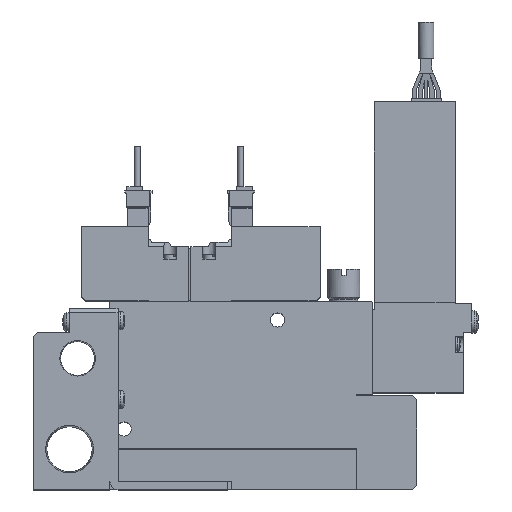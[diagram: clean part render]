
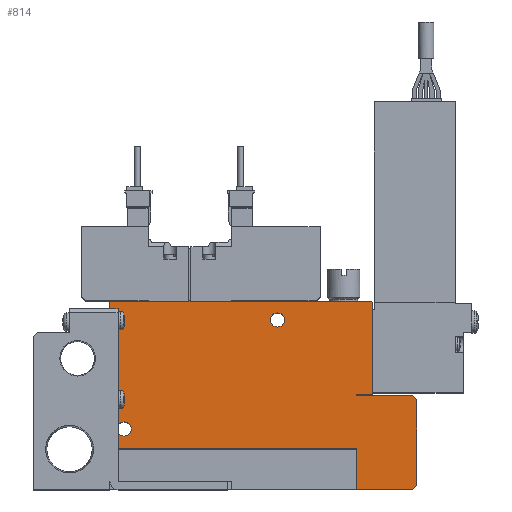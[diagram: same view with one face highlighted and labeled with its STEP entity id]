
A CAD part, top view. The second image highlights one B-rep face of the part: STEP entity #814.
In plain terms, the highlighted planar face has unit normal (0, 0, 1).
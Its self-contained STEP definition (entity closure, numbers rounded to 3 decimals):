
#814=ADVANCED_FACE('',(#1863,#1864,#1865),#1866,.F.);
#1863=FACE_OUTER_BOUND('',#3391,.T.);
#1864=FACE_BOUND('',#3392,.T.);
#1865=FACE_BOUND('',#3393,.T.);
#1866=PLANE('',#3394);
#3391=EDGE_LOOP('',(#7003,#7004,#7005,#7006,#7007,#7008,#7009,#7010,#7011,#7012,#7013,#7014,#7015,#7016));
#3392=EDGE_LOOP('',(#7017));
#3393=EDGE_LOOP('',(#7018));
#3394=AXIS2_PLACEMENT_3D('',#7019,#7020,#7021);
#7003=ORIENTED_EDGE('',*,*,#10138,.T.);
#7004=ORIENTED_EDGE('',*,*,#10124,.F.);
#7005=ORIENTED_EDGE('',*,*,#10139,.F.);
#7006=ORIENTED_EDGE('',*,*,#10106,.T.);
#7007=ORIENTED_EDGE('',*,*,#10140,.T.);
#7008=ORIENTED_EDGE('',*,*,#10141,.T.);
#7009=ORIENTED_EDGE('',*,*,#10099,.T.);
#7010=ORIENTED_EDGE('',*,*,#10142,.T.);
#7011=ORIENTED_EDGE('',*,*,#10143,.T.);
#7012=ORIENTED_EDGE('',*,*,#10144,.T.);
#7013=ORIENTED_EDGE('',*,*,#10145,.T.);
#7014=ORIENTED_EDGE('',*,*,#10146,.T.);
#7015=ORIENTED_EDGE('',*,*,#10147,.T.);
#7016=ORIENTED_EDGE('',*,*,#10148,.T.);
#7017=ORIENTED_EDGE('',*,*,#10149,.F.);
#7018=ORIENTED_EDGE('',*,*,#10150,.F.);
#7019=CARTESIAN_POINT('',(0.0,0.0,5.0));
#7020=DIRECTION('',(0.0,0.0,-1.0));
#7021=DIRECTION('',(0.0,-1.0,0.0));
#10099=EDGE_CURVE('',#12243,#12241,#12244,.T.);
#10106=EDGE_CURVE('',#12251,#12255,#12257,.T.);
#10124=EDGE_CURVE('',#12291,#12292,#12293,.T.);
#10138=EDGE_CURVE('',#12317,#12292,#12318,.T.);
#10139=EDGE_CURVE('',#12251,#12291,#12319,.T.);
#10140=EDGE_CURVE('',#12255,#12320,#12321,.T.);
#10141=EDGE_CURVE('',#12320,#12243,#12322,.T.);
#10142=EDGE_CURVE('',#12241,#12323,#12324,.T.);
#10143=EDGE_CURVE('',#12323,#12325,#12326,.T.);
#10144=EDGE_CURVE('',#12325,#12327,#12328,.T.);
#10145=EDGE_CURVE('',#12327,#12329,#12330,.T.);
#10146=EDGE_CURVE('',#12329,#12331,#12332,.T.);
#10147=EDGE_CURVE('',#12331,#12333,#12334,.T.);
#10148=EDGE_CURVE('',#12333,#12317,#12335,.T.);
#10149=EDGE_CURVE('',#12336,#12336,#12337,.T.);
#10150=EDGE_CURVE('',#12338,#12338,#12339,.T.);
#12241=VERTEX_POINT('',#15766);
#12243=VERTEX_POINT('',#15769);
#12244=LINE('',#15770,#15771);
#12251=VERTEX_POINT('',#15780);
#12255=VERTEX_POINT('',#15786);
#12257=LINE('',#15789,#15790);
#12291=VERTEX_POINT('',#15841);
#12292=VERTEX_POINT('',#15842);
#12293=LINE('',#15843,#15844);
#12317=VERTEX_POINT('',#15881);
#12318=LINE('',#15882,#15883);
#12319=LINE('',#15884,#15885);
#12320=VERTEX_POINT('',#15886);
#12321=LINE('',#15887,#15888);
#12322=LINE('',#15889,#15890);
#12323=VERTEX_POINT('',#15891);
#12324=LINE('',#15892,#15893);
#12325=VERTEX_POINT('',#15894);
#12326=LINE('',#15895,#15896);
#12327=VERTEX_POINT('',#15897);
#12328=LINE('',#15898,#15899);
#12329=VERTEX_POINT('',#15900);
#12330=LINE('',#15901,#15902);
#12331=VERTEX_POINT('',#15903);
#12332=LINE('',#15904,#15905);
#12333=VERTEX_POINT('',#15906);
#12334=LINE('',#15907,#15908);
#12335=LINE('',#15909,#15910);
#12336=VERTEX_POINT('',#15911);
#12337=CIRCLE('',#15912,1.75);
#12338=VERTEX_POINT('',#15913);
#12339=CIRCLE('',#15914,1.75);
#15766=CARTESIAN_POINT('',(75.0,23.25,5.0));
#15769=CARTESIAN_POINT('',(76.0,22.25,5.0));
#15770=CARTESIAN_POINT('',(76.0,22.25,5.0));
#15771=VECTOR('',#19547,1.0);
#15780=CARTESIAN_POINT('',(61.1,0.0,5.0));
#15786=CARTESIAN_POINT('',(75.0,0.0,5.0));
#15789=CARTESIAN_POINT('',(0.0,0.0,5.0));
#15790=VECTOR('',#19556,1.0);
#15841=CARTESIAN_POINT('',(61.1,10.1,5.0));
#15842=CARTESIAN_POINT('',(0.0,10.1,5.0));
#15843=CARTESIAN_POINT('',(61.1,10.1,5.0));
#15844=VECTOR('',#19574,1.0);
#15881=CARTESIAN_POINT('',(0.0,46.4,5.0));
#15882=CARTESIAN_POINT('',(0.0,46.4,5.0));
#15883=VECTOR('',#19588,1.0);
#15884=CARTESIAN_POINT('',(61.1,0.0,5.0));
#15885=VECTOR('',#19589,1.0);
#15886=CARTESIAN_POINT('',(76.0,1.0,5.0));
#15887=CARTESIAN_POINT('',(75.0,0.0,5.0));
#15888=VECTOR('',#19590,1.0);
#15889=CARTESIAN_POINT('',(76.0,1.0,5.0));
#15890=VECTOR('',#19591,1.0);
#15891=CARTESIAN_POINT('',(61.0,23.25,5.0));
#15892=CARTESIAN_POINT('',(75.0,23.25,5.0));
#15893=VECTOR('',#19592,1.0);
#15894=CARTESIAN_POINT('',(61.0,23.5,5.0));
#15895=CARTESIAN_POINT('',(61.0,23.25,5.0));
#15896=VECTOR('',#19593,1.0);
#15897=CARTESIAN_POINT('',(65.0,23.5,5.0));
#15898=CARTESIAN_POINT('',(61.0,23.5,5.0));
#15899=VECTOR('',#19594,1.0);
#15900=CARTESIAN_POINT('',(65.0,46.4,5.0));
#15901=CARTESIAN_POINT('',(65.0,23.5,5.0));
#15902=VECTOR('',#19595,1.0);
#15903=CARTESIAN_POINT('',(64.8,46.6,5.0));
#15904=CARTESIAN_POINT('',(65.0,46.4,5.0));
#15905=VECTOR('',#19596,1.0);
#15906=CARTESIAN_POINT('',(0.2,46.6,5.0));
#15907=CARTESIAN_POINT('',(64.8,46.6,5.0));
#15908=VECTOR('',#19597,1.0);
#15909=CARTESIAN_POINT('',(0.2,46.6,5.0));
#15910=VECTOR('',#19598,1.0);
#15911=CARTESIAN_POINT('',(5.25,15.0,5.0));
#15912=AXIS2_PLACEMENT_3D('',#19599,#19600,#19601);
#15913=CARTESIAN_POINT('',(43.25,42.0,5.0));
#15914=AXIS2_PLACEMENT_3D('',#19602,#19603,#19604);
#19547=DIRECTION('',(-0.707,0.707,0.0));
#19556=DIRECTION('',(1.0,0.0,0.0));
#19574=DIRECTION('',(-1.0,0.0,0.0));
#19588=DIRECTION('',(0.0,-1.0,0.0));
#19589=DIRECTION('',(0.0,1.0,0.0));
#19590=DIRECTION('',(0.707,0.707,0.0));
#19591=DIRECTION('',(0.0,1.0,0.0));
#19592=DIRECTION('',(-1.0,0.0,0.0));
#19593=DIRECTION('',(0.0,1.0,0.0));
#19594=DIRECTION('',(1.0,0.,0.0));
#19595=DIRECTION('',(0.0,1.0,0.0));
#19596=DIRECTION('',(-0.707,0.707,0.0));
#19597=DIRECTION('',(-1.0,0.0,0.0));
#19598=DIRECTION('',(-0.707,-0.707,0.0));
#19599=CARTESIAN_POINT('',(3.5,15.0,5.0));
#19600=DIRECTION('',(0.0,0.0,1.0));
#19601=DIRECTION('',(1.0,0.0,0.0));
#19602=CARTESIAN_POINT('',(41.5,42.0,5.0));
#19603=DIRECTION('',(0.0,0.0,1.0));
#19604=DIRECTION('',(1.0,0.0,0.0));
